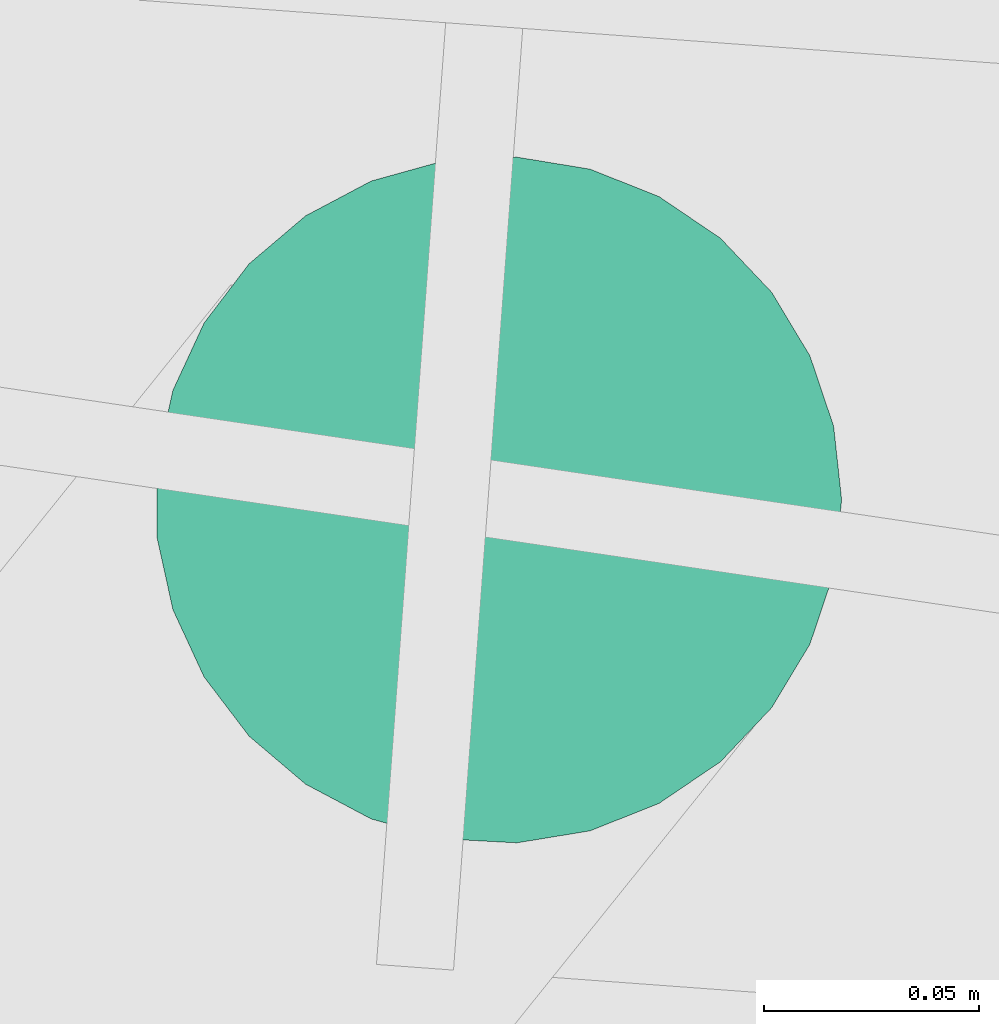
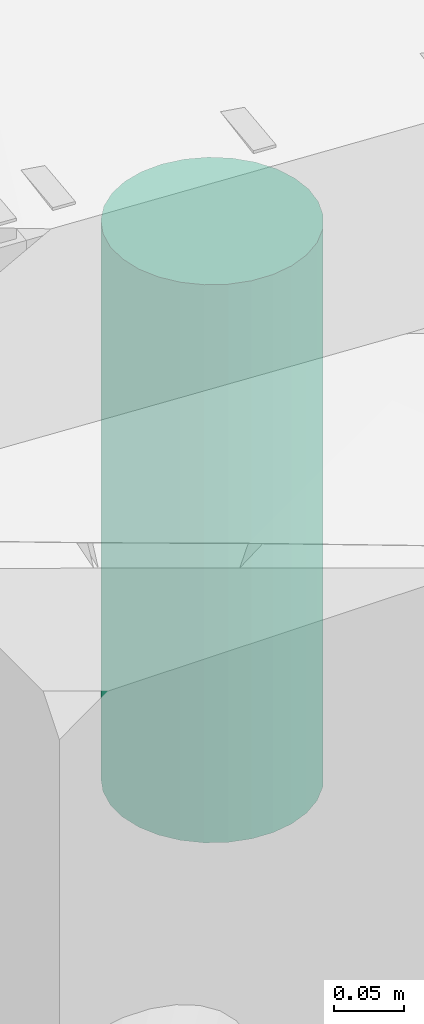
# Not in any storey, part 58 of 72: 1 pipe segment.
"""IFC4 model written with IfcOpenShell, lengths in metres."""

from ifc_helpers import new_model, si_unit, direction, frame, origin_with_axes, place, context, subcontext, project, spatial, circle, extrude, material, material_profile, profile_set, profile_usage, type_object, element, save


model = new_model("IFC4")

# Units and contexts
model_context = context("Model", 3, precision=1e-05, world=origin_with_axes(), true_north=direction((0.0, 1.0)))
body_context = subcontext(model_context, "Body", "Model", "MODEL_VIEW")
ifc_project = project(units=[si_unit("AREAUNIT", "SQUARE_METRE"), si_unit("VOLUMEUNIT", "CUBIC_METRE"), si_unit("LENGTHUNIT", "METRE")], contexts=[model_context])

# Site
site_placement = place(None, origin_with_axes())
site = spatial("IfcSite", under=ifc_project, at=site_placement, Name="Lares · Rua das Mercês · artigo 4771")

# Pipe segment
ifc_material = material(Name="Caleiras · betão", Category="concrete")
ifc_material_profile = material_profile(ifc_material, circle(Radius=0.08))
ifc_profile_set = profile_set([ifc_material_profile], Name="D0.16")
ifc_profile_usage = profile_usage(ifc_profile_set)
pipe_segment_type = type_object("IfcPipeSegmentType", Name="D0.16 / drain", PredefinedType="NOTDEFINED", material=ifc_profile_set)
pipe_segment_placement = place(site_placement, frame((47.8613163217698, 3.24236823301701, 14.3751428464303), z_axis=(0.0, 0.0, -1.0), x_axis=(1.0, -1.03767253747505e-17, 0.0)))
element("IfcPipeSegment", 1, at=pipe_segment_placement, inside=site, type_object=pipe_segment_type, material=ifc_profile_usage, Name="Acesso · queda pluvial até coletor", context=body_context, shape_type="SweptSolid", body=[
    extrude(circle(Radius=0.08), origin_with_axes(), (0.0, 0.0, 1.0), 0.489128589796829),
])

save(model, "model.ifc")
